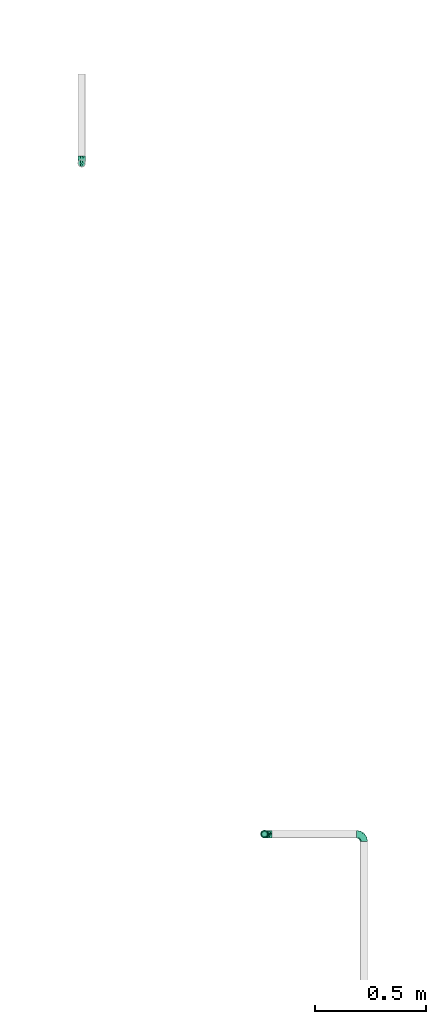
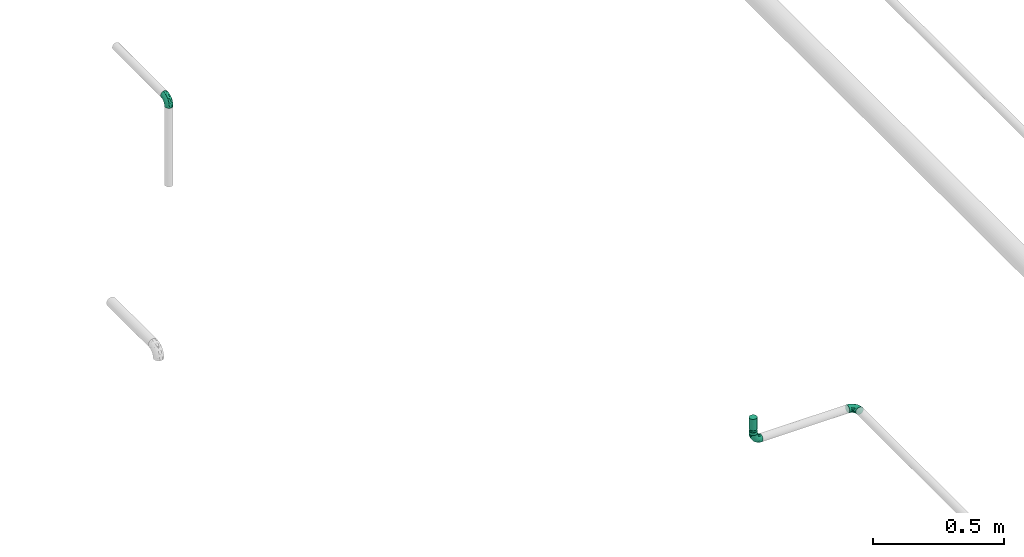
# One storey, part 11 of 32: 4 flow fittings, 1 flow segment, 1 flow terminal.
"""IFC2X3 building model written with IfcOpenShell, lengths in millimetres."""

from ifc_helpers import new_model, entity, si_unit, converted_unit, derived_unit, direction, frame, origin_with_axes, origin_2d_with_axis, place, context, subcontext, project, spatial, hollow_circle, extrude, open_shell, surface_model, source, transform, mapped, type_object, element, save


model = new_model("IFC2X3")

# Units and contexts
model_context = context("Model", 3, precision=0.01, world=frame((0.0, 4.29681676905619e-09, 0.0)), true_north=direction((4.01073788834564e-13, 1.0)))
plan_context = context("Plan", 3, precision=0.01, world=frame((0.0, 4.29681676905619e-09, 0.0)), true_north=direction((4.01073788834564e-13, 1.0)))
body_context = subcontext(model_context, "Body", "Model", "MODEL_VIEW")
ifc_project = project(units=[converted_unit("PLANEANGLEUNIT", "DEGREE", entity("IfcPositiveLengthMeasure", 0.0174532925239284), si_unit("PLANEANGLEUNIT", "RADIAN"), dimensions=[0, 0, 0, 0, 0, 0, 0]), si_unit("AREAUNIT", "SQUARE_METRE"), si_unit("LENGTHUNIT", "METRE", prefix="MILLI"), si_unit("MASSUNIT", "GRAM", prefix="KILO"), si_unit("POWERUNIT", "WATT"), si_unit("PRESSUREUNIT", "PASCAL", prefix="KILO"), si_unit("FORCEUNIT", "NEWTON", prefix="KILO"), si_unit("ELECTRICVOLTAGEUNIT", "VOLT"), si_unit("ELECTRICCURRENTUNIT", "AMPERE"), si_unit("THERMODYNAMICTEMPERATUREUNIT", "DEGREE_CELSIUS"), si_unit("TIMEUNIT", "SECOND"), si_unit("VOLUMEUNIT", "CUBIC_METRE"), derived_unit("LINEARVELOCITYUNIT", [(si_unit("LENGTHUNIT", "METRE"), 1), (si_unit("TIMEUNIT", "SECOND"), -1)]), derived_unit("VOLUMETRICFLOWRATEUNIT", [(si_unit("VOLUMEUNIT", "CUBIC_METRE"), 1), (si_unit("TIMEUNIT", "SECOND"), -1)]), derived_unit("THERMALTRANSMITTANCEUNIT", [(si_unit("POWERUNIT", "WATT"), 1), (si_unit("THERMODYNAMICTEMPERATUREUNIT", "KELVIN"), -1), (si_unit("AREAUNIT", "SQUARE_METRE"), -1)]), derived_unit("SOUNDPRESSUREUNIT", [(si_unit("PRESSUREUNIT", "PASCAL"), 1)])], contexts=[model_context, plan_context])

# Site, building, storey
site_placement = place(None, frame((0.0, -4.29681676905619e-09, 0.0), z_axis=(0.0, 0.0, 1.0), x_axis=(1.0, 0.0, 0.0)))
site = spatial("IfcSite", under=ifc_project, at=site_placement, CompositionType="ELEMENT")
building_placement = place(site_placement, frame((0.0, 4.29681676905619e-09, 0.0), z_axis=(0.0, 0.0, 1.0), x_axis=(1.0, 0.0, 0.0)))
building = spatial("IfcBuilding", under=site, at=building_placement, Name="mc-building", CompositionType="ELEMENT")
storey_placement = place(building_placement, frame((0.0, 0.0, 205200.0), z_axis=(0.0, 0.0, 1.0), x_axis=(1.0, 0.0, 0.0)))
storey = spatial("IfcBuildingStorey", under=building, at=storey_placement, Name="Nivå D + 1,2 m", CompositionType="ELEMENT", Elevation=205200.0)

# Flow fittings
pipe_fitting_type_1 = type_object("IfcPipeFittingType", Name="magi_pipe_fe_elbow_short_001", PredefinedType="BEND")
shared_shape_1 = source(origin_with_axes(), body_context, "Body", "SurfaceModel", [
    surface_model("IfcShellBasedSurfaceModel", [(-33.8, -11.9501, -11.9501), (-33.8, -14.63583, -8.45), (-33.8, -8.45, -14.63583), (-33.8, 0.0, -16.9), (-33.8, -4.37404, -16.32415), (-33.8, -16.32415, -4.37404), (-33.8, -16.9, 0.0), (-33.8, 11.9501, 11.9501), (-33.8, 14.63583, 8.45), (-33.8, 8.45, 14.63583), (-33.8, -11.9501, 11.9501), (-33.8, -8.45, 14.63583), (-33.8, -14.63583, 8.45), (-33.8, -16.32415, 4.37404), (-33.8, -4.37404, 16.32415), (-33.8, 0.0, 16.9), (-33.8, 16.9, 0.0), (-33.8, 16.32415, -4.37404), (-33.8, 16.32415, 4.37404), (-33.8, 4.37404, -16.32415), (-33.8, 8.45, -14.63583), (-33.8, 14.63583, -8.45), (-33.8, 11.9501, -11.9501), (-33.8, 4.37404, 16.32415), (-4.37404, 33.8, -16.32415), (16.9, 33.8, 0.0), (0.0, 33.8, -16.9), (-16.32415, 33.8, -4.37404), (-8.45, 33.8, -14.63583), (-14.63583, 33.8, -8.45), (-11.9501, 33.8, -11.9501), (16.32415, 33.8, 4.37404), (8.45, 33.8, -14.63583), (14.63583, 33.8, -8.45), (11.9501, 33.8, -11.9501), (4.37404, 33.8, -16.32415), (16.32415, 33.8, -4.37404), (-16.32415, 33.8, 4.37404), (-4.37404, 33.8, 16.32415), (-14.63583, 33.8, 8.45), (-8.45, 33.8, 14.63583), (-11.9501, 33.8, 11.9501), (14.63583, 33.8, 8.45), (8.45, 33.8, 14.63583), (11.9501, 33.8, 11.9501), (0.0, 33.8, 16.9), (4.37404, 33.8, 16.32415), (-16.9, 33.8, 0.0), (-24.79389, -13.12945, 9.48721), (-22.19287, -9.75018, 12.59315), (-24.09897, -14.97035, 0.0), (-14.93934, -10.76256, 8.5297), (-22.46095, -14.75051, 5.27077), (14.75051, 22.46094, 5.27077), (11.9251, 13.23888, 4.33236), (13.04069, 14.39795, 0.0), (7.71387, 13.68847, 11.55891), (9.75018, 22.19287, 12.59315), (4.10169, 13.0571, 14.04018), (-24.84007, -6.39063, 15.2048), (-25.81779, -2.23879, 16.61097), (-23.66549, 2.59054, 16.87119), (-26.50418, 14.06512, 11.08152), (-24.21253, 17.66365, 7.72657), (-29.58514, 15.86957, 7.00283), (-6.17382, -7.5455, 0.0), (-13.23888, -11.9251, 4.33236), (-14.39795, -13.04069, 0.0), (-17.81434, 18.87373, 11.97104), (-6.30846, 29.15138, 15.82987), (-2.31622, 25.28002, 16.85849), (-29.23923, 10.23435, 13.77053), (-1.45439, -2.85688, 7.61475), (-0.28326, 0.34872, 10.09509), (-5.74484, -4.04709, 10.4122), (-4.41137, 11.31918, 16.59407), (-8.39727, 3.10034, 15.7812), (-1.72649, 9.1306, 15.53089), (-17.39909, 24.75344, 7.64977), (-26.19233, 20.0512, 0.0), (-28.14518, 17.29657, 4.25857), (-26.05147, 6.6281, 15.96447), (-5.87354, 16.61944, 16.86968), (-12.51807, 12.51807, 16.48937), (-10.06312, 7.38516, 16.81295), (-3.01882, 3.01882, 13.81718), (-13.0571, -4.10169, 14.04018), (-16.82553, -0.15166, 16.38038), (10.76256, 14.93934, 8.5297), (13.12945, 24.79389, 9.48721), (6.39063, 24.84007, 15.2048), (2.23879, 25.81779, 16.61097), (-13.68847, -7.71387, 11.55891), (14.97035, 24.09897, 0.0), (-7.30894, 22.89991, 16.09489), (-10.67958, 26.17414, 14.008), (-12.78295, 18.26924, 15.06066), (-13.88562, 22.45231, 12.93244), (-18.04944, 15.16501, 14.04434), (-23.11658, 20.08178, 4.02986), (-21.84989, 21.84989, 0.0), (-18.55817, 25.48277, 3.93065), (-13.95142, 26.94732, 11.03289), (-18.57098, 7.23906, 16.59756), (-16.58335, 4.14122, 16.89279), (-17.96666, 11.46709, 15.63151), (-9.84453, 17.54304, 16.18938), (0.15166, 16.82553, 16.38038), (-23.27207, 11.47201, 14.23154), (3.84842, 5.86994, 10.70473), (-8.0212, -7.54413, 7.93275), (1.00345, -2.19508, 4.57414), (5.13203, 3.01004, 5.90201), (5.24161, 1.7543, 2.53265), (8.70457, 7.04947, 3.99182), (-20.0512, 26.19233, 0.0), (8.4852, 8.76699, 7.09296), (-4.55488, -6.72064, 4.90681), (2.05031, -2.05031, 0.0), (7.5455, 6.17382, 0.0), (-26.75399, 2.1369, -16.845), (-14.61995, 24.73803, -11.27736), (-28.45274, -13.45335, -9.81895), (-26.00469, 6.63555, -15.96645), (-23.06726, 20.04573, -4.26202), (-13.80647, -4.26506, -14.17873), (-14.67501, -0.21081, -16.07388), (-6.7902, -0.2828, -13.8478), (-24.53586, 11.08096, -14.13417), (-26.72048, 14.00837, -11.05776), (10.0967, 24.44989, -12.75976), (5.83237, 21.40218, -15.03047), (6.66249, 28.54238, -15.38093), (-20.38182, 15.48705, -12.74596), (12.53268, 21.23441, -9.15363), (12.54494, 15.67504, -5.54878), (9.7522, 12.89279, -8.66343), (-15.65186, 19.64213, -13.01327), (-12.03528, 20.66498, -14.67665), (-15.61907, 15.61906, -14.83879), (-25.56551, -15.26206, 0.0), (-24.65452, -15.12934, -5.50955), (13.45335, 28.45274, -9.81895), (15.12934, 24.65452, -5.50955), (-7.35442, -8.31014, -5.65563), (-15.67504, -12.54494, -5.54878), (-24.44989, -10.0967, -12.75976), (0.16522, 0.41303, -9.71728), (-5.70658, -5.33066, -8.89288), (-5.13869, -2.37198, -11.53565), (-21.23441, -12.53268, -9.15363), (0.71146, 7.93863, -14.09382), (0.21081, 14.67501, -16.07388), (3.49291, 14.42772, -14.76381), (-24.89911, -2.13088, -16.591), (-28.54238, -6.66249, -15.38093), (-18.44386, -7.71663, -13.26957), (2.13088, 24.89911, -16.591), (-28.64342, 17.44413, -2.89318), (1.70017, -1.28722, -5.09504), (-16.57067, 26.81947, -7.36596), (-17.69055, 27.4263, -3.76405), (-12.89279, -9.7522, -8.66343), (-5.96611, 5.96611, -15.95814), (-20.53709, 20.09345, -8.28985), (-2.1369, 26.75399, -16.845), (-6.89872, 24.58781, -16.02578), (-10.60739, 26.53157, -13.98044), (-21.40218, -5.83237, -15.03047), (2.93192, 5.89627, -11.55917), (6.89393, 12.61842, -11.82233), (5.58056, 5.95325, -8.79455), (-3.99512, 18.61798, -16.89635), (8.31014, 7.35442, -5.65563), (-9.1383, 9.86148, -16.89041), (-9.99983, 16.02119, -16.39699), (-16.68576, 9.78031, -16.34199), (-27.01915, 16.61158, -7.12979), (15.26206, 25.56551, 0.0), (-18.61798, 3.99512, -16.89635), (-19.37495, 27.82495, 0.0), (-12.61842, -6.89393, -11.82233), (-18.84705, 19.14018, -10.96545)], [open_shell([[[0, 1, 2]], [[3, 4, 2]], [[5, 6, 1]], [[7, 8, 9]], [[10, 11, 12]], [[13, 12, 11]], [[14, 15, 11]], [[16, 17, 18]], [[3, 6, 19]], [[20, 19, 17]], [[20, 17, 21]], [[22, 20, 21]], [[17, 19, 6]], [[2, 1, 6]], [[2, 6, 3]], [[6, 18, 17]], [[23, 18, 6]], [[8, 18, 23]], [[8, 23, 9]], [[13, 23, 6]], [[23, 13, 11]], [[11, 15, 23]], [[24, 25, 26]], [[27, 24, 28]], [[29, 27, 28]], [[29, 28, 30]], [[31, 25, 24]], [[32, 33, 34]], [[32, 35, 26]], [[33, 25, 36]], [[33, 32, 26]], [[25, 33, 26]], [[24, 27, 37]], [[31, 24, 37]], [[38, 37, 39]], [[40, 38, 39]], [[40, 39, 41]], [[31, 37, 38]], [[42, 43, 44]], [[43, 42, 31]], [[43, 45, 46]], [[43, 31, 38]], [[38, 45, 43]], [[37, 27, 47]], [[10, 48, 49]], [[13, 6, 50]], [[51, 48, 52]], [[53, 54, 55]], [[48, 10, 12]], [[13, 52, 12]], [[56, 57, 58]], [[49, 11, 10]], [[49, 59, 11]], [[15, 60, 61]], [[62, 63, 64]], [[65, 66, 67]], [[57, 44, 43]], [[62, 68, 63]], [[38, 69, 70]], [[9, 71, 7]], [[14, 60, 15]], [[72, 73, 74]], [[75, 76, 77]], [[7, 62, 8]], [[39, 37, 78]], [[79, 16, 80]], [[64, 18, 8]], [[15, 61, 23]], [[23, 81, 9]], [[82, 83, 84]], [[74, 85, 86]], [[59, 86, 87]], [[88, 89, 57]], [[90, 43, 46]], [[42, 53, 31]], [[46, 45, 91]], [[54, 53, 88]], [[42, 89, 53]], [[92, 86, 49]], [[89, 42, 44]], [[11, 59, 14]], [[53, 55, 93]], [[93, 31, 53]], [[66, 52, 67]], [[94, 82, 70]], [[95, 96, 94]], [[97, 98, 96]], [[79, 99, 100]], [[40, 41, 95]], [[101, 100, 99]], [[68, 78, 63]], [[38, 40, 69]], [[16, 18, 80]], [[95, 94, 69]], [[78, 101, 99]], [[41, 102, 95]], [[70, 45, 38]], [[97, 95, 102]], [[13, 50, 52]], [[90, 57, 43]], [[57, 90, 58]], [[81, 23, 61]], [[103, 104, 84]], [[105, 81, 103]], [[41, 39, 102]], [[106, 96, 83]], [[94, 106, 82]], [[91, 70, 107]], [[71, 62, 7]], [[62, 108, 98]], [[86, 59, 49]], [[67, 52, 50]], [[60, 59, 87]], [[92, 49, 51]], [[86, 85, 76]], [[91, 90, 46]], [[25, 31, 93]], [[107, 77, 58]], [[107, 58, 90]], [[58, 85, 109]], [[110, 74, 92]], [[72, 74, 110]], [[66, 51, 52]], [[72, 111, 112]], [[113, 114, 112]], [[56, 88, 57]], [[52, 48, 12]], [[49, 48, 51]], [[57, 89, 44]], [[53, 89, 88]], [[103, 81, 61]], [[71, 81, 108]], [[18, 64, 80]], [[63, 78, 99]], [[47, 115, 101]], [[101, 115, 100]], [[39, 78, 102]], [[68, 102, 78]], [[97, 96, 95]], [[105, 98, 108]], [[103, 84, 83]], [[107, 70, 82]], [[76, 84, 87]], [[82, 84, 75]], [[70, 91, 45]], [[90, 91, 107]], [[59, 60, 14]], [[61, 60, 87]], [[73, 85, 74]], [[109, 112, 116]], [[103, 61, 104]], [[105, 103, 83]], [[96, 105, 83]], [[81, 105, 108]], [[96, 98, 105]], [[62, 98, 68]], [[61, 87, 104]], [[87, 84, 104]], [[86, 76, 87]], [[77, 76, 85]], [[58, 77, 85]], [[75, 77, 107]], [[82, 75, 107]], [[76, 75, 84]], [[81, 71, 9]], [[62, 71, 108]], [[95, 69, 40]], [[70, 69, 94]], [[62, 64, 8]], [[80, 63, 99]], [[63, 80, 64]], [[80, 99, 79]], [[66, 65, 117]], [[110, 66, 117]], [[112, 114, 116]], [[118, 117, 65]], [[110, 92, 51]], [[112, 111, 113]], [[119, 55, 54]], [[74, 86, 92]], [[58, 109, 56]], [[116, 56, 109]], [[66, 110, 51]], [[72, 110, 117]], [[111, 72, 117]], [[73, 112, 109]], [[117, 118, 111]], [[113, 111, 118]], [[118, 119, 113]], [[114, 119, 54]], [[119, 114, 113]], [[116, 54, 88]], [[54, 116, 114]], [[116, 88, 56]], [[112, 73, 72]], [[85, 73, 109]], [[78, 37, 101]], [[47, 101, 37]], [[102, 68, 97]], [[97, 68, 98]], [[82, 106, 83]], [[94, 96, 106]], [[19, 120, 3]], [[29, 30, 121]], [[0, 122, 1]], [[20, 123, 19]], [[100, 124, 79]], [[125, 126, 127]], [[128, 22, 129]], [[130, 131, 132]], [[128, 129, 133]], [[134, 135, 136]], [[137, 138, 139]], [[128, 20, 22]], [[67, 140, 141]], [[134, 142, 143]], [[141, 5, 1]], [[144, 65, 145]], [[146, 0, 2]], [[147, 148, 149]], [[145, 141, 150]], [[151, 152, 153]], [[154, 4, 3]], [[2, 155, 146]], [[150, 146, 156]], [[155, 2, 4]], [[143, 135, 134]], [[35, 157, 26]], [[16, 79, 158]], [[148, 159, 144]], [[160, 161, 27]], [[145, 162, 144]], [[163, 152, 151]], [[27, 29, 160]], [[121, 164, 160]], [[32, 34, 130]], [[26, 165, 24]], [[24, 165, 166]], [[142, 34, 33]], [[30, 28, 167]], [[124, 161, 164]], [[157, 35, 132]], [[155, 154, 168]], [[123, 20, 128]], [[169, 170, 171]], [[172, 157, 152]], [[24, 166, 28]], [[132, 35, 32]], [[142, 130, 34]], [[168, 154, 126]], [[136, 135, 173]], [[133, 137, 139]], [[22, 21, 129]], [[170, 131, 130]], [[33, 36, 143]], [[172, 174, 175]], [[176, 123, 128]], [[158, 177, 17]], [[135, 55, 119]], [[167, 28, 166]], [[175, 166, 172]], [[137, 167, 138]], [[122, 141, 1]], [[140, 6, 5]], [[36, 25, 178]], [[170, 130, 134]], [[152, 157, 131]], [[165, 157, 172]], [[153, 170, 151]], [[152, 163, 174]], [[168, 125, 156]], [[122, 146, 150]], [[120, 154, 3]], [[179, 174, 126]], [[179, 126, 154]], [[126, 163, 127]], [[162, 145, 150]], [[140, 5, 141]], [[36, 178, 143]], [[55, 143, 178]], [[177, 129, 21]], [[128, 133, 139]], [[176, 128, 139]], [[120, 123, 179]], [[121, 160, 29]], [[161, 100, 180]], [[166, 175, 138]], [[121, 30, 167]], [[161, 47, 27]], [[79, 124, 158]], [[124, 164, 177]], [[161, 124, 100]], [[136, 171, 170]], [[127, 163, 151]], [[147, 171, 159]], [[148, 144, 162]], [[127, 151, 169]], [[127, 181, 125]], [[129, 177, 164]], [[21, 17, 177]], [[159, 65, 144]], [[67, 141, 145]], [[143, 55, 135]], [[135, 119, 173]], [[123, 120, 19]], [[154, 120, 179]], [[157, 165, 26]], [[166, 165, 172]], [[172, 152, 174]], [[176, 139, 175]], [[126, 174, 163]], [[176, 174, 179]], [[174, 176, 175]], [[123, 176, 179]], [[150, 181, 162]], [[127, 149, 181]], [[181, 148, 162]], [[159, 148, 147]], [[171, 136, 173]], [[170, 134, 136]], [[159, 171, 173]], [[171, 147, 169]], [[169, 147, 149]], [[151, 170, 169]], [[164, 182, 129]], [[182, 121, 137]], [[181, 149, 148]], [[169, 149, 127]], [[182, 137, 133]], [[167, 137, 121]], [[166, 138, 167]], [[175, 139, 138]], [[129, 182, 133]], [[121, 182, 164]], [[161, 160, 164]], [[47, 161, 180]], [[177, 158, 124]], [[16, 158, 17]], [[130, 132, 32]], [[157, 132, 131]], [[143, 142, 33]], [[130, 142, 134]], [[154, 155, 4]], [[146, 155, 168]], [[146, 122, 0]], [[141, 122, 150]], [[152, 131, 153]], [[159, 119, 118]], [[67, 145, 65]], [[170, 153, 131]], [[119, 159, 173]], [[159, 118, 65]], [[156, 125, 181]], [[126, 125, 168]], [[150, 156, 181]], [[168, 156, 146]]])]),
])
for number, where, z_axis, x_axis, name in (
    (1, (326993.46135, 467096.53781, 4400.0), (1.0, 0.0, 0.0), (0.0, -1.0, 0.0), "magi_pipe_fe_elbow_short_001"),
    (2, (328269.97595, 464062.86677, 4357.43145999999), (0.0, 0.0, 1.0), (0.0, 1.0, 0.0), "magi_pipe_fe_elbow_short_001"),
    (3, (327819.97595, 464062.86677, 4357.43145999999), (0.0, -1.0, 0.0), (0.0, 0.0, -1.0), "magi_pipe_fe_elbow_short_001"),
):
    element("IfcFlowFitting", number, at=place(storey_placement, frame(where, z_axis=z_axis, x_axis=x_axis)), inside=storey, type_object=pipe_fitting_type_1, Name=name, context=body_context, shape_type="MappedRepresentation", body=[
        mapped(shared_shape_1, transform((0.0, 0.0, 0.0), scale=1.0)),
    ])
pipe_fitting_type_2 = type_object("IfcPipeFittingType", Name="magi_pipe_fe_reducer_centric_short_001", PredefinedType="TRANSITION")
shared_shape_2 = source(origin_with_axes(), body_context, "Body", "SurfaceModel", [
    surface_model("IfcShellBasedSurfaceModel", [(-2.0, 11.9501, 11.9501), (-2.0, 0.0, 16.9), (-2.0, 4.37404, 16.32415), (-2.0, 8.45, 14.63583), (-2.0, 14.63583, 8.45), (-2.0, 16.32415, 4.37404), (-2.0, -16.32415, 4.37404), (-2.0, -8.45, 14.63583), (-2.0, -14.63583, 8.45), (-2.0, -11.9501, 11.9501), (-2.0, -4.37404, 16.32415), (-2.0, -16.32415, -4.37404), (-2.0, -16.9, 0.0), (-2.0, -8.45, -14.63583), (-2.0, 16.32415, -4.37404), (-2.0, 11.9501, -11.9501), (-2.0, 14.63583, -8.45), (-2.0, 8.45, -14.63583), (-2.0, 4.37404, -16.32415), (-2.0, 0.0, -16.9), (-2.0, -11.9501, -11.9501), (-2.0, -14.63583, -8.45), (-2.0, -4.37404, -16.32415), (-2.0, 16.9, 0.0), (0.0, 4.37404, -16.32415), (0.0, 8.45, -14.63583), (0.0, 11.9501, -11.9501), (0.0, 0.0, -16.9), (0.0, 16.32415, -4.37404), (0.0, 16.32415, 4.37404), (0.0, 14.63583, -8.45), (0.0, -8.45, -14.63583), (0.0, -4.37404, -16.32415), (0.0, -11.9501, -11.9501), (0.0, -16.32415, -4.37404), (0.0, -14.63583, -8.45), (0.0, -16.32415, 4.37404), (0.0, 16.9, 0.0), (0.0, 14.63583, 8.45), (0.0, 11.9501, 11.9501), (0.0, 4.37404, 16.32415), (0.0, 8.45, 14.63583), (0.0, 0.0, 16.9), (0.0, -14.63583, 8.45), (0.0, -16.9, 0.0), (0.0, -8.45, 14.63583), (0.0, -11.9501, 11.9501), (0.0, -4.37404, 16.32415), (14.4, 5.35, -9.26647), (14.4, 0.0, -10.7), (14.4, 2.76936, -10.33541), (14.4, 10.33541, -2.76936), (14.4, 7.56604, -7.56604), (14.4, -5.35, -9.26647), (14.4, 9.26647, -5.35), (14.4, -9.26647, 5.35), (14.4, -2.76936, -10.33541), (14.4, -7.56604, -7.56604), (14.4, -10.33541, -2.76936), (14.4, -9.26647, -5.35), (14.4, 10.33541, 2.76936), (14.4, 10.7, 0.0), (14.4, 9.26647, 5.35), (14.4, 7.56604, 7.56604), (14.4, 2.76936, 10.33541), (14.4, 0.0, 10.7), (14.4, 5.35, 9.26647), (14.4, -10.33541, 2.76936), (14.4, -10.7, 0.0), (14.4, -7.56604, 7.56604), (14.4, -2.76936, 10.33541), (14.4, -5.35, 9.26647), (12.4, 0.0, 10.7), (12.4, 2.76936, 10.33541), (12.4, 5.35, 9.26647), (12.4, 7.56604, 7.56604), (12.4, 9.26647, 5.35), (12.4, 10.33541, 2.76936), (12.4, -10.33541, 2.76936), (12.4, 10.33541, -2.76936), (12.4, -2.76936, 10.33541), (12.4, -7.56604, 7.56604), (12.4, -5.35, 9.26647), (12.4, -9.26647, 5.35), (12.4, -10.33541, -2.76936), (12.4, -10.7, 0.0), (12.4, 2.76936, -10.33541), (12.4, 9.26647, -5.35), (12.4, 7.56604, -7.56604), (12.4, 5.35, -9.26647), (12.4, -7.56604, -7.56604), (12.4, -9.26647, -5.35), (12.4, -5.35, -9.26647), (12.4, 0.0, -10.7), (12.4, -2.76936, -10.33541), (12.4, 10.7, 0.0), (12.4, 9.3625, -2.31662), (0.0, 14.42505, -5.97505), (0.0, 15.66253, -2.98753), (12.4, -6.6875, -6.94985), (0.0, -13.18758, -8.96258), (0.0, 2.98753, -15.66253), (12.4, 0.0, -9.26647), (12.4, 6.6875, -6.94985), (0.0, 8.96258, -13.18758), (12.4, -9.3625, -2.31662), (0.0, -15.66253, -2.98753), (0.0, -14.42505, -5.97505), (0.0, 5.97505, -14.42505), (0.0, -2.98753, -15.66253), (0.0, -8.96258, -13.18758), (0.0, 13.18758, -8.96258), (12.4, 8.025, -4.63324), (12.4, -2.675, -9.26647), (12.4, 2.675, -9.26647), (0.0, -5.97505, -14.42505), (12.4, -8.025, -4.63324), (12.4, -9.3625, 2.31662), (0.0, -14.42505, 5.97505), (0.0, -15.66253, 2.98753), (12.4, 6.6875, 6.94985), (0.0, 13.18758, 8.96258), (0.0, -2.98753, 15.66253), (12.4, 0.0, 9.26647), (12.4, -6.6875, 6.94985), (0.0, -8.96258, 13.18758), (12.4, 9.3625, 2.31662), (0.0, 15.66253, 2.98753), (0.0, 14.42505, 5.97505), (0.0, -5.97505, 14.42505), (0.0, 2.98753, 15.66253), (0.0, 8.96258, 13.18758), (0.0, -13.18758, 8.96258), (12.4, -8.025, 4.63324), (12.4, 2.675, 9.26647), (12.4, -2.675, 9.26647), (0.0, 5.97505, 14.42505), (12.4, 8.025, 4.63324)], [open_shell([[[0, 1, 2]], [[0, 2, 3]], [[0, 4, 5]], [[0, 5, 1]], [[1, 5, 6]], [[7, 8, 9]], [[7, 10, 1]], [[8, 7, 1]], [[1, 6, 8]], [[6, 11, 12]], [[6, 5, 13]], [[5, 14, 15]], [[15, 14, 16]], [[15, 17, 18]], [[13, 5, 15]], [[19, 15, 18]], [[11, 20, 21]], [[20, 11, 13]], [[13, 19, 22]], [[11, 6, 13]], [[15, 19, 13]], [[5, 23, 14]], [[24, 25, 26]], [[27, 24, 26]], [[26, 28, 29]], [[28, 26, 30]], [[26, 29, 31]], [[27, 31, 32]], [[27, 26, 31]], [[33, 34, 35]], [[34, 33, 31]], [[31, 36, 34]], [[29, 28, 37]], [[29, 38, 39]], [[29, 39, 40]], [[40, 36, 31]], [[40, 39, 41]], [[36, 40, 42]], [[42, 43, 36]], [[44, 34, 36]], [[43, 45, 46]], [[43, 42, 45]], [[45, 42, 47]], [[31, 29, 40]], [[11, 34, 12]], [[21, 35, 11]], [[31, 20, 13]], [[21, 20, 33]], [[32, 13, 22]], [[11, 35, 34]], [[34, 44, 12]], [[32, 31, 13]], [[33, 20, 31]], [[33, 35, 21]], [[27, 32, 22]], [[22, 19, 27]], [[18, 24, 19]], [[17, 25, 18]], [[30, 15, 16]], [[17, 15, 26]], [[28, 16, 14]], [[17, 26, 25]], [[25, 24, 18]], [[37, 28, 14]], [[30, 16, 28]], [[30, 26, 15]], [[23, 37, 14]], [[19, 24, 27]], [[5, 29, 23]], [[4, 38, 5]], [[41, 0, 3]], [[4, 0, 39]], [[40, 3, 2]], [[5, 38, 29]], [[29, 37, 23]], [[40, 41, 3]], [[39, 0, 41]], [[39, 38, 4]], [[42, 40, 2]], [[2, 1, 42]], [[10, 47, 1]], [[7, 45, 10]], [[43, 9, 8]], [[7, 9, 46]], [[36, 8, 6]], [[7, 46, 45]], [[45, 47, 10]], [[44, 36, 6]], [[43, 8, 36]], [[43, 46, 9]], [[12, 44, 6]], [[1, 47, 42]], [[33, 44, 27]], [[48, 49, 50]], [[51, 48, 52]], [[53, 48, 51]], [[51, 52, 54]], [[55, 53, 51]], [[49, 53, 56]], [[49, 48, 53]], [[57, 58, 59]], [[58, 57, 53]], [[53, 55, 58]], [[60, 51, 61]], [[60, 62, 63]], [[51, 63, 55]], [[64, 65, 63]], [[64, 63, 66]], [[55, 63, 65]], [[58, 67, 68]], [[55, 67, 58]], [[69, 70, 71]], [[70, 69, 55]], [[65, 70, 55]], [[51, 60, 63]], [[72, 73, 74]], [[72, 74, 75]], [[75, 76, 77]], [[72, 75, 78]], [[79, 78, 75]], [[80, 81, 82]], [[81, 80, 78]], [[81, 78, 83]], [[80, 72, 78]], [[78, 84, 85]], [[79, 75, 77]], [[84, 78, 79]], [[86, 79, 87]], [[88, 89, 86]], [[88, 86, 87]], [[84, 79, 86]], [[84, 90, 91]], [[90, 84, 92]], [[92, 93, 94]], [[92, 84, 86]], [[86, 93, 92]], [[79, 77, 95]], [[84, 58, 85]], [[91, 59, 84]], [[53, 90, 92]], [[91, 90, 57]], [[56, 92, 94]], [[84, 59, 58]], [[58, 68, 85]], [[56, 53, 92]], [[57, 90, 53]], [[57, 59, 91]], [[49, 56, 94]], [[94, 93, 49]], [[86, 50, 93]], [[89, 48, 86]], [[54, 88, 87]], [[89, 88, 52]], [[51, 87, 79]], [[89, 52, 48]], [[48, 50, 86]], [[61, 51, 79]], [[54, 87, 51]], [[54, 52, 88]], [[95, 61, 79]], [[93, 50, 49]], [[77, 60, 95]], [[76, 62, 77]], [[66, 75, 74]], [[76, 75, 63]], [[64, 74, 73]], [[77, 62, 60]], [[60, 61, 95]], [[64, 66, 74]], [[63, 75, 66]], [[63, 62, 76]], [[65, 64, 73]], [[73, 72, 65]], [[80, 70, 72]], [[82, 71, 80]], [[55, 81, 83]], [[82, 81, 69]], [[67, 83, 78]], [[82, 69, 71]], [[71, 70, 80]], [[68, 67, 78]], [[55, 83, 67]], [[55, 69, 81]], [[85, 68, 78]], [[72, 70, 65]], [[74, 82, 95]], [[95, 82, 92]], [[92, 89, 95]], [[92, 82, 85]], [[42, 39, 44]], [[44, 46, 42]], [[39, 26, 44]], [[27, 44, 26]], [[26, 39, 37]], [[96, 97, 98]], [[33, 99, 100]], [[101, 102, 27]], [[98, 37, 95]], [[26, 103, 104]], [[104, 103, 89]], [[105, 106, 107]], [[89, 108, 104]], [[102, 109, 27]], [[110, 99, 33]], [[95, 96, 98]], [[103, 111, 112]], [[109, 102, 113]], [[85, 44, 106]], [[102, 101, 114]], [[110, 115, 92]], [[96, 112, 97]], [[107, 116, 105]], [[85, 106, 105]], [[113, 115, 109]], [[92, 115, 113]], [[116, 107, 100]], [[108, 89, 114]], [[111, 103, 26]], [[111, 97, 112]], [[99, 110, 92]], [[116, 100, 99]], [[101, 108, 114]], [[117, 118, 119]], [[39, 120, 121]], [[122, 123, 42]], [[119, 44, 85]], [[46, 124, 125]], [[125, 124, 82]], [[126, 127, 128]], [[82, 129, 125]], [[123, 130, 42]], [[131, 120, 39]], [[85, 117, 119]], [[124, 132, 133]], [[130, 123, 134]], [[95, 37, 127]], [[123, 122, 135]], [[131, 136, 74]], [[117, 133, 118]], [[128, 137, 126]], [[95, 127, 126]], [[134, 136, 130]], [[74, 136, 134]], [[137, 128, 121]], [[129, 82, 135]], [[132, 124, 46]], [[132, 118, 133]], [[120, 131, 74]], [[137, 121, 120]], [[122, 129, 135]]])]),
])
flow_fitting_placement = place(storey_placement, frame((327819.97595, 464062.86677, 4402.73146000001), z_axis=(-1.0, 0.0, 0.0), x_axis=(0.0, 0.0, 1.0)))
element("IfcFlowFitting", 4, at=flow_fitting_placement, inside=storey, type_object=pipe_fitting_type_2, Name="magi_pipe_fe_reducer_centric_short_001", context=body_context, shape_type="MappedRepresentation", body=[
    mapped(shared_shape_2, transform((0.0, 0.0, 0.0), scale=1.0)),
])

# Flow segment
pipe_segment_type = type_object("IfcPipeSegmentType", Name="Stålrør normaltykke", PredefinedType="RIGIDSEGMENT")
shared_shape_3 = source(origin_with_axes(), body_context, "Body", "SweptSolid", [
    extrude(hollow_circle(Radius=16.9, WallThickness=2.0, at=origin_2d_with_axis()), frame((0.0, 0.0, 0.0), z_axis=(1.0, 0.0, 0.0), x_axis=(0.0, 1.0, 0.0)), (0.0, 0.0, 1.0), 12.5),
])
flow_segment_placement = place(storey_placement, frame((327819.97595, 464062.86677, 4402.73146000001), z_axis=(-1.0, 0.0, 0.0), x_axis=(0.0, 0.0, -1.0)))
element("IfcFlowSegment", 5, at=flow_segment_placement, inside=storey, type_object=pipe_segment_type, Name="Stålrør normaltykke", context=body_context, shape_type="MappedRepresentation", body=[
    mapped(shared_shape_3, transform((0.0, 0.0, 0.0), scale=1.0)),
])

# Flow terminal
fire_suppression_terminal_type = type_object("IfcFireSuppressionTerminalType", Name="SP-15-K80-68DGR-STD-NEDOVER", PredefinedType="NOTDEFINED")
shared_shape_4 = source(origin_with_axes(), body_context, "Body", "SurfaceModel", [
    surface_model("IfcShellBasedSurfaceModel", [(15.45481, -4.1411, 53.0), (13.85641, -8.0, 53.0), (15.45481, -4.1411, 0.0), (16.0, 0.0, 0.0), (16.0, 0.0, 53.0), (15.45481, 4.1411, 0.0), (13.85641, 8.0, 53.0), (15.45481, 4.1411, 53.0), (11.31371, 11.31371, 53.0), (8.0, 13.85641, 53.0), (4.1411, 15.45481, 53.0), (-8.0, 13.85641, 53.0), (-4.1411, 15.45481, 53.0), (0.0, 16.0, 53.0), (-11.31371, 11.31371, 53.0), (-13.85641, 8.0, 53.0), (-15.45481, 4.1411, 53.0), (11.31371, -11.31371, 53.0), (-16.0, 0.0, 53.0), (0.0, -16.0, 53.0), (4.1411, -15.45481, 53.0), (8.0, -13.85641, 53.0), (-13.85641, -8.0, 53.0), (-11.31371, -11.31371, 53.0), (-15.45481, -4.1411, 53.0), (-8.0, -13.85641, 53.0), (-4.1411, -15.45481, 53.0), (8.0, -13.85641, 0.0), (4.1411, -15.45481, 0.0), (0.0, -16.0, 0.0), (-4.1411, -15.45481, 0.0), (13.85641, -8.0, 0.0), (11.31371, -11.31371, 0.0), (-16.0, 0.0, 0.0), (-8.0, -13.85641, 0.0), (-11.31371, -11.31371, 0.0), (-13.85641, -8.0, 0.0), (-15.45481, -4.1411, 0.0), (4.1411, 15.45481, 0.0), (13.85641, 8.0, 0.0), (8.0, 13.85641, 0.0), (11.31371, 11.31371, 0.0), (-15.45481, 4.1411, 0.0), (-11.31371, 11.31371, 0.0), (-8.0, 13.85641, 0.0), (-13.85641, 8.0, 0.0), (-4.1411, 15.45481, 0.0), (0.0, 16.0, 0.0)], [open_shell([[[0, 1, 2]], [[3, 4, 0]], [[5, 6, 7]], [[7, 4, 3]], [[8, 9, 10]], [[8, 10, 11]], [[8, 4, 7]], [[6, 8, 7]], [[4, 8, 11]], [[12, 11, 13]], [[11, 10, 13]], [[14, 15, 11]], [[16, 11, 15]], [[11, 16, 4]], [[16, 0, 4]], [[17, 1, 0]], [[18, 17, 16]], [[19, 20, 21]], [[18, 21, 17]], [[21, 18, 19]], [[22, 23, 24]], [[18, 24, 23]], [[25, 26, 23]], [[18, 23, 26]], [[26, 19, 18]], [[0, 16, 17]], [[27, 28, 29]], [[27, 29, 30]], [[2, 31, 32]], [[32, 27, 33]], [[2, 32, 33]], [[34, 35, 30]], [[36, 30, 35]], [[36, 37, 30]], [[37, 27, 30]], [[37, 33, 27]], [[33, 5, 2]], [[38, 5, 33]], [[39, 5, 38]], [[38, 40, 41]], [[39, 38, 41]], [[33, 42, 38]], [[43, 44, 45]], [[42, 45, 44]], [[46, 47, 44]], [[38, 42, 44]], [[44, 47, 38]], [[5, 3, 2]], [[45, 42, 16]], [[45, 15, 43]], [[46, 44, 11]], [[14, 44, 43]], [[47, 46, 12]], [[33, 18, 42]], [[18, 16, 42]], [[16, 15, 45]], [[15, 14, 43]], [[44, 14, 11]], [[11, 12, 46]], [[12, 13, 47]], [[40, 38, 10]], [[40, 9, 41]], [[5, 39, 6]], [[8, 39, 41]], [[3, 5, 7]], [[13, 10, 38]], [[10, 9, 40]], [[9, 8, 41]], [[8, 6, 39]], [[47, 13, 38]], [[2, 3, 0]], [[31, 2, 1]], [[28, 27, 21]], [[29, 28, 20]], [[1, 17, 32]], [[17, 27, 32]], [[21, 27, 17]], [[21, 20, 28]], [[31, 1, 32]], [[20, 19, 29]], [[34, 30, 26]], [[34, 25, 35]], [[37, 36, 22]], [[23, 36, 35]], [[33, 37, 24]], [[19, 26, 30]], [[26, 25, 34]], [[25, 23, 35]], [[23, 22, 36]], [[37, 22, 24]], [[24, 18, 33]], [[29, 19, 30]]])]),
])
flow_terminal_placement = place(storey_placement, frame((327819.97595, 464062.86677, 4412.08345999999), z_axis=(0.0, 0.0, 1.0), x_axis=(0.0, 1.0, 0.0)))
element("IfcFlowTerminal", 6, at=flow_terminal_placement, inside=storey, type_object=fire_suppression_terminal_type, Name="SP-15-K80-68DGR-STD-NEDOVER", context=body_context, shape_type="MappedRepresentation", body=[
    mapped(shared_shape_4, transform((0.0, 0.0, 0.0), scale=1.0)),
])

save(model, "model.ifc")
